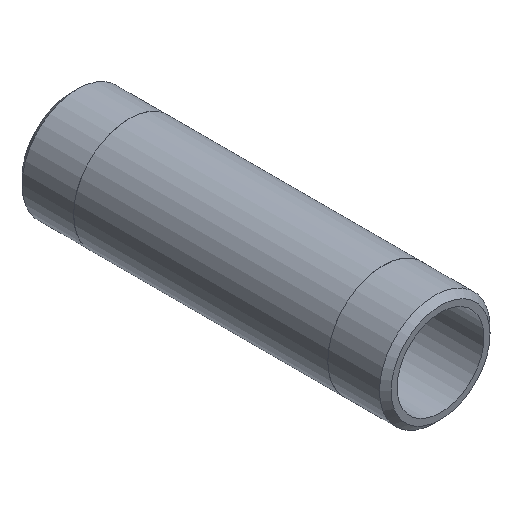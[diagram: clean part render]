
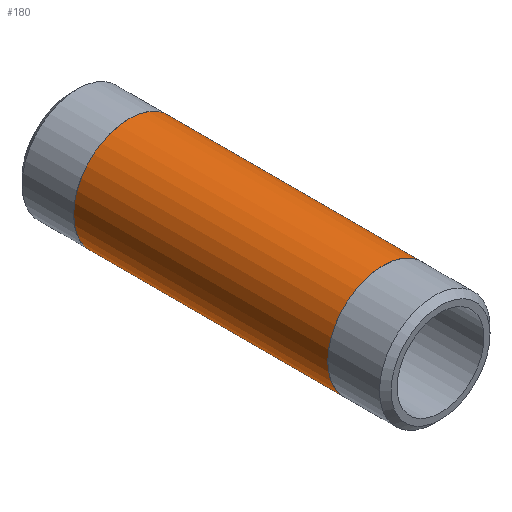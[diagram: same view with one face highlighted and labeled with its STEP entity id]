
A CAD part, isometric view. The second image highlights one B-rep face of the part: STEP entity #180.
In plain terms, the highlighted cylindrical face has radius 13.335 mm (diameter 26.67 mm), a full revolution.
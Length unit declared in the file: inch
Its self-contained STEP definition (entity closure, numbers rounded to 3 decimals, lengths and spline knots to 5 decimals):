
#25=CYLINDRICAL_SURFACE('',#220,0.525);
#34=FACE_OUTER_BOUND('',#47,.T.);
#47=EDGE_LOOP('',(#155,#156,#157,#158,#159,#160));
#55=LINE('',#338,#61);
#61=VECTOR('',#283,0.525);
#77=CIRCLE('',#218,0.525);
#78=CIRCLE('',#219,0.525);
#79=CIRCLE('',#221,0.525);
#80=CIRCLE('',#222,0.525);
#95=VERTEX_POINT('',#329);
#96=VERTEX_POINT('',#330);
#97=VERTEX_POINT('',#334);
#98=VERTEX_POINT('',#335);
#117=EDGE_CURVE('',#95,#96,#77,.T.);
#118=EDGE_CURVE('',#96,#95,#78,.T.);
#119=EDGE_CURVE('',#97,#98,#79,.T.);
#120=EDGE_CURVE('',#98,#97,#80,.T.);
#121=EDGE_CURVE('',#98,#96,#55,.T.);
#155=ORIENTED_EDGE('',*,*,#119,.F.);
#156=ORIENTED_EDGE('',*,*,#120,.F.);
#157=ORIENTED_EDGE('',*,*,#121,.T.);
#158=ORIENTED_EDGE('',*,*,#118,.T.);
#159=ORIENTED_EDGE('',*,*,#117,.T.);
#160=ORIENTED_EDGE('',*,*,#121,.F.);
#180=ADVANCED_FACE('',(#34),#25,.T.);
#218=AXIS2_PLACEMENT_3D('',#331,#273,#274);
#219=AXIS2_PLACEMENT_3D('',#332,#275,#276);
#220=AXIS2_PLACEMENT_3D('',#333,#277,#278);
#221=AXIS2_PLACEMENT_3D('',#336,#279,#280);
#222=AXIS2_PLACEMENT_3D('',#337,#281,#282);
#273=DIRECTION('center_axis',(0.,-1.,0.));
#274=DIRECTION('ref_axis',(1.,0.,0.));
#275=DIRECTION('center_axis',(0.,-1.,0.));
#276=DIRECTION('ref_axis',(1.,0.,0.));
#277=DIRECTION('center_axis',(0.,-1.,0.));
#278=DIRECTION('ref_axis',(0.,0.,-1.));
#279=DIRECTION('center_axis',(0.,-1.,0.));
#280=DIRECTION('ref_axis',(1.,0.,0.));
#281=DIRECTION('center_axis',(0.,-1.,0.));
#282=DIRECTION('ref_axis',(1.,0.,0.));
#283=DIRECTION('',(0.,1.,0.));
#329=CARTESIAN_POINT('',(0.,2.955,-0.525));
#330=CARTESIAN_POINT('',(0.,2.955,0.525));
#331=CARTESIAN_POINT('Origin',(0.,2.955,0.));
#332=CARTESIAN_POINT('Origin',(0.,2.955,0.));
#333=CARTESIAN_POINT('Origin',(0.,1.75,0.));
#334=CARTESIAN_POINT('',(0.,0.545,-0.525));
#335=CARTESIAN_POINT('',(0.,0.545,0.525));
#336=CARTESIAN_POINT('Origin',(0.,0.545,0.));
#337=CARTESIAN_POINT('Origin',(0.,0.545,0.));
#338=CARTESIAN_POINT('',(0.,1.75,0.525));
